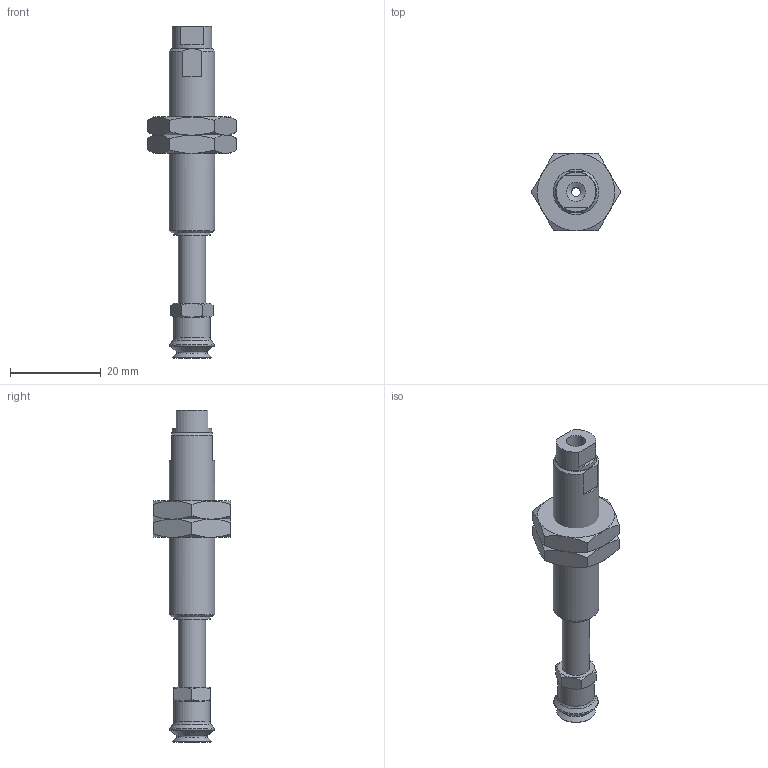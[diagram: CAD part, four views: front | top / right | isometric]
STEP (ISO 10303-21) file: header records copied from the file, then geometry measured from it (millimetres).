
FILE_DESCRIPTION(('STEP AP203'),'1');
FILE_NAME('-LB.stp','2025-10-10T05:53:11',(' '),(' '),'Spatial InterOp 3D',' ',' ');
FILE_SCHEMA(('CONFIG_CONTROL_DESIGN'));
Length unit declared in the file: millimetre
Products named in the file (7): BNABPJTH-8-15-※-LB; NUT; __; BODY; BPJG-8-_; PS-8-J-M- body
Assembly tree (6 placements, depth 2):
  BNABPJTH-8-15-※-LB
    NUT
    NUT
    __
    BODY
    BPJG-8-_
    PS-8-J-M- body
Bounding box: 19.63 x 17 x 73 mm (x, y, z)
Volume: 5553.6 mm3; surface area: 4660.6 mm2
Topology: 6 solids, 6 shells, 115 faces, 242 edges, 144 vertices
Faces by surface type: cone 48, plane 43, cylinder 16, torus 8
Full cylindrical faces by diameter (mm): 2 x2, 4 x2, 4.2 x2, 5 x1, 6 x3, 8 x2, 8.7 x1, 9 x2, 10 x1
Entity records: 3268 total; most frequent: CARTESIAN_POINT 714, DIRECTION 460, ORIENTED_EDGE 400, AXIS2_PLACEMENT_3D 214, EDGE_CURVE 200, EDGE_LOOP 166, FACE_OUTER_BOUND 139, VERTEX_POINT 136
